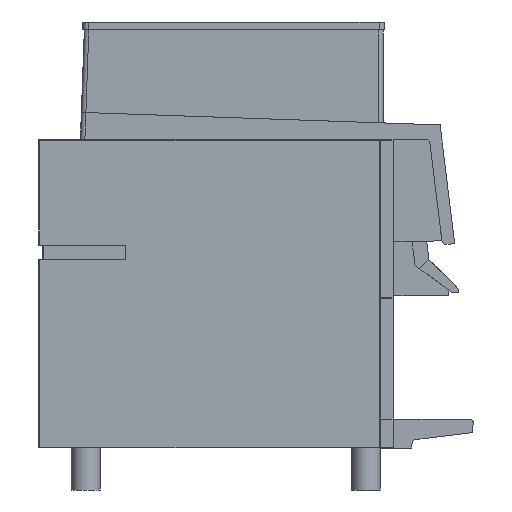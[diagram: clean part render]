
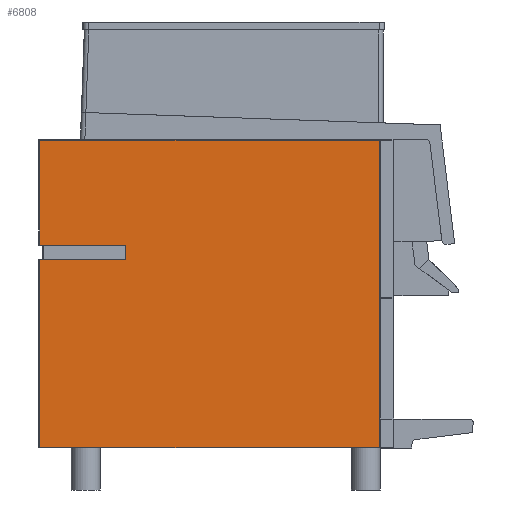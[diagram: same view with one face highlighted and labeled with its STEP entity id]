
A CAD part, left-side view. The second image highlights one B-rep face of the part: STEP entity #6808.
In plain terms, the highlighted planar face has unit normal (-1, 0, 0).
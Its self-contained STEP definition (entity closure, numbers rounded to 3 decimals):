
#323=LINE('',#9050,#892);
#521=LINE('',#9564,#1090);
#522=LINE('',#9566,#1091);
#523=LINE('',#9568,#1092);
#524=LINE('',#9570,#1093);
#525=LINE('',#9572,#1094);
#526=LINE('',#9574,#1095);
#527=LINE('',#9576,#1096);
#528=LINE('',#9578,#1097);
#529=LINE('',#9580,#1098);
#892=VECTOR('',#7568,1000.);
#1090=VECTOR('',#7992,1000.);
#1091=VECTOR('',#7993,1000.);
#1092=VECTOR('',#7994,1000.);
#1093=VECTOR('',#7995,1000.);
#1094=VECTOR('',#7996,1000.);
#1095=VECTOR('',#7997,1000.);
#1096=VECTOR('',#7998,1000.);
#1097=VECTOR('',#7999,1000.);
#1098=VECTOR('',#8000,1000.);
#1814=ORIENTED_EDGE('',*,*,#2927,.F.);
#1815=ORIENTED_EDGE('',*,*,#3190,.T.);
#1816=ORIENTED_EDGE('',*,*,#3191,.T.);
#1817=ORIENTED_EDGE('',*,*,#3192,.T.);
#1818=ORIENTED_EDGE('',*,*,#3193,.F.);
#1819=ORIENTED_EDGE('',*,*,#3194,.F.);
#1820=ORIENTED_EDGE('',*,*,#3195,.F.);
#1821=ORIENTED_EDGE('',*,*,#3196,.T.);
#1822=ORIENTED_EDGE('',*,*,#3197,.T.);
#1823=ORIENTED_EDGE('',*,*,#3198,.T.);
#2927=EDGE_CURVE('',#3651,#3652,#323,.T.);
#3190=EDGE_CURVE('',#3651,#3855,#521,.T.);
#3191=EDGE_CURVE('',#3855,#3856,#522,.F.);
#3192=EDGE_CURVE('',#3856,#3857,#523,.F.);
#3193=EDGE_CURVE('',#3858,#3857,#524,.T.);
#3194=EDGE_CURVE('',#3859,#3858,#525,.T.);
#3195=EDGE_CURVE('',#3860,#3859,#526,.T.);
#3196=EDGE_CURVE('',#3860,#3861,#527,.T.);
#3197=EDGE_CURVE('',#3861,#3862,#528,.T.);
#3198=EDGE_CURVE('',#3862,#3652,#529,.F.);
#3651=VERTEX_POINT('',#9049);
#3652=VERTEX_POINT('',#9051);
#3855=VERTEX_POINT('',#9565);
#3856=VERTEX_POINT('',#9567);
#3857=VERTEX_POINT('',#9569);
#3858=VERTEX_POINT('',#9571);
#3859=VERTEX_POINT('',#9573);
#3860=VERTEX_POINT('',#9575);
#3861=VERTEX_POINT('',#9577);
#3862=VERTEX_POINT('',#9579);
#4138=EDGE_LOOP('',(#1814,#1815,#1816,#1817,#1818,#1819,#1820,#1821,#1822,
#1823));
#4429=FACE_BOUND('',#4138,.T.);
#4701=PLANE('',#7163);
#6808=ADVANCED_FACE('',(#4429),#4701,.F.);
#7163=AXIS2_PLACEMENT_3D('',#9563,#7990,#7991);
#7568=DIRECTION('',(0.,1.,0.));
#7990=DIRECTION('',(1.,0.,0.));
#7991=DIRECTION('',(0.,1.,0.));
#7992=DIRECTION('',(0.,0.,1.));
#7993=DIRECTION('',(0.,-1.,0.));
#7994=DIRECTION('',(0.,0.,1.));
#7995=DIRECTION('',(0.,1.,0.));
#7996=DIRECTION('',(0.,1.,0.));
#7997=DIRECTION('',(0.,0.,1.));
#7998=DIRECTION('',(0.,1.,0.));
#7999=DIRECTION('',(0.,1.,0.));
#8000=DIRECTION('',(0.,0.,1.));
#9049=CARTESIAN_POINT('',(-114.,-470.,0.));
#9050=CARTESIAN_POINT('',(-114.,-490.,0.));
#9051=CARTESIAN_POINT('',(-114.,-1.2,0.));
#9563=CARTESIAN_POINT('',(-114.,0.,0.));
#9564=CARTESIAN_POINT('',(-114.,-470.,420.5));
#9565=CARTESIAN_POINT('',(-114.,-470.,424.8));
#9566=CARTESIAN_POINT('',(-114.,0.,424.8));
#9567=CARTESIAN_POINT('',(-114.,-1.2,424.8));
#9568=CARTESIAN_POINT('',(-114.,-1.2,0.));
#9569=CARTESIAN_POINT('',(-114.,-1.2,280.));
#9570=CARTESIAN_POINT('',(-114.,-5.,280.));
#9571=CARTESIAN_POINT('',(-114.,-5.133,280.));
#9572=CARTESIAN_POINT('',(-114.,-120.,280.));
#9573=CARTESIAN_POINT('',(-114.,-120.,280.));
#9574=CARTESIAN_POINT('',(-114.,-120.,260.));
#9575=CARTESIAN_POINT('',(-114.,-120.,260.));
#9576=CARTESIAN_POINT('',(-114.,-120.,260.));
#9577=CARTESIAN_POINT('',(-114.,-5.133,260.));
#9578=CARTESIAN_POINT('',(-114.,-5.,260.));
#9579=CARTESIAN_POINT('',(-114.,-1.2,260.));
#9580=CARTESIAN_POINT('',(-114.,-1.2,0.));
